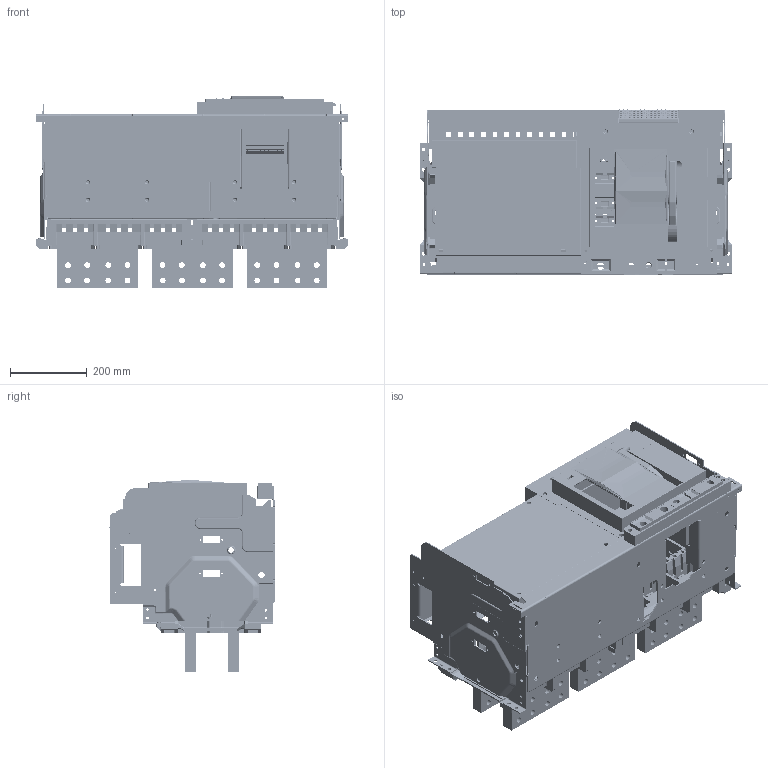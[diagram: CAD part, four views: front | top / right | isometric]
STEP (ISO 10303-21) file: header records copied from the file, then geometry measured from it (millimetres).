
FILE_DESCRIPTION((''),'2;1');
FILE_NAME('NA8G-6300-5000-3P_ASM','2020-05-13T09:20:08',('lcc'),(''),'CREO PARAMETRIC BY PTC INC, 2018020','CREO PARAMETRIC BY PTC INC, 2018020','');
FILE_SCHEMA(('CONFIG_CONTROL_DESIGN','SHAPE_APPEARANCE_LAYERS_GROUPS'));
Products named in the file (32): 8ZTD-024-458-1; 8-050-234; 8-050-235; 8ZTD-300-043; 5ZTD-300-085-1; DW45-3200-3P-DIJIA; NA8G-6300-5000-A; 8ZTD-160-063; 8ZTD-160-061; 5ZTD-580-059_ASM; NA8G-6300-5000-B; 5ZTD-580-060_ASM; 8-060-145-3; NA8G-6300-3P-ZHAO; 8-253-289; 8-253-290; 8-253-034; 8ZTD-300-253; 8ZTD-024-837; 8ZTD-557-514; 8ZTD-557-515; 8ZTD-557-516; 8ZTD-557-517; M3_GB6170_4_1; M3X8_GB818_10_1; 8ZTD-141-185; 8ZTD-141-184; 5ZTD-558-712_ASM; 8ZTD-860-699; 8ZTD-064-136; 5ZTD-558-695-4000_ASM; NA8G-6300-5000-3P_ASM
Assembly tree (61 placements, depth 4):
  NA8G-6300-5000-3P_ASM
    8ZTD-024-458-1
    8-050-234
    8-050-235
    8ZTD-300-043
    5ZTD-300-085-1
    DW45-3200-3P-DIJIA  x2
    5ZTD-580-059_ASM  x4
      NA8G-6300-5000-A
      8ZTD-160-063
      8ZTD-160-061
    5ZTD-580-060_ASM  x2
      NA8G-6300-5000-B
      8ZTD-160-063
      8ZTD-160-061
    8-060-145-3
    NA8G-6300-3P-ZHAO
    8-253-289
    8-253-290
    8-253-034
    8ZTD-300-253
    5ZTD-558-695-4000_ASM
      5ZTD-558-712_ASM  x14
        8ZTD-024-837
        8ZTD-557-514
        8ZTD-557-515
        8ZTD-557-516
        8ZTD-557-517
        M3_GB6170_4_1
        M3X8_GB818_10_1
        8ZTD-141-185
        8ZTD-141-184
      8ZTD-860-699
      8ZTD-064-136
Bounding box: 815 x 430.03 x 501 mm (x, y, z)
Volume: 13630490.8 mm3; surface area: 5545448.7 mm2
Topology: 255 solids, 267 shells, 22734 faces, 61145 edges, 39031 vertices
Faces by surface type: plane 14977, cylinder 5030, cone 1028, bspline 849, sphere 444, torus 406
Entity records: 224259 total; most frequent: CARTESIAN_POINT 40712, ORIENTED_EDGE 31651, DIRECTION 30516, EDGE_CURVE 15859, VECTOR 11448, LINE 11448, PRESENTATION_STYLE_ASSIGNMENT 11055, STYLED_ITEM 11052
